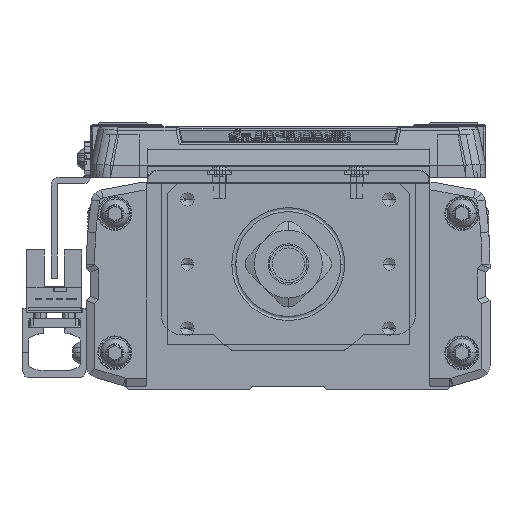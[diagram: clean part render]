
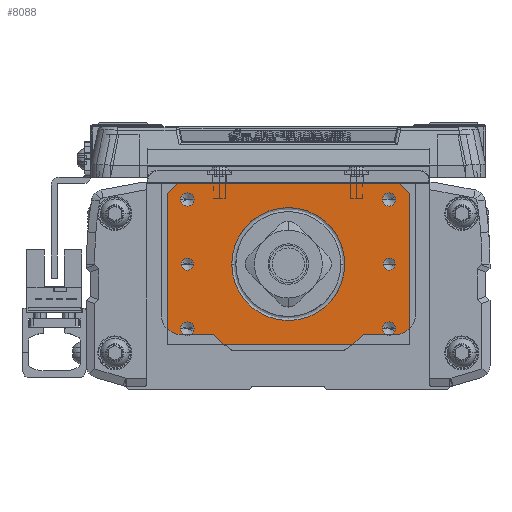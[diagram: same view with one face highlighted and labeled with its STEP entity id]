
A CAD part, left-side view. The second image highlights one B-rep face of the part: STEP entity #8088.
In plain terms, the highlighted planar face has unit normal (-1, 0, 0).
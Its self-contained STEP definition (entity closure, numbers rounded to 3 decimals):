
#8088=ADVANCED_FACE('',(#16320,#16321,#16322,#16323,#16324,#16325,#16326,#16327),#16328,.T.);
#16320=FACE_BOUND('',#25153,.T.);
#16321=FACE_BOUND('',#25154,.T.);
#16322=FACE_BOUND('',#25155,.T.);
#16323=FACE_BOUND('',#25156,.T.);
#16324=FACE_BOUND('',#25157,.T.);
#16325=FACE_BOUND('',#25158,.T.);
#16326=FACE_BOUND('',#25159,.T.);
#16327=FACE_OUTER_BOUND('',#25160,.T.);
#16328=PLANE('',#25161);
#25153=EDGE_LOOP('',(#48193,#48194));
#25154=EDGE_LOOP('',(#48195,#48196));
#25155=EDGE_LOOP('',(#48197,#48198));
#25156=EDGE_LOOP('',(#48199,#48200));
#25157=EDGE_LOOP('',(#48201,#48202));
#25158=EDGE_LOOP('',(#48203,#48204));
#25159=EDGE_LOOP('',(#48205,#48206,#48207));
#25160=EDGE_LOOP('',(#48208,#48209,#48210,#48211,#48212,#48213));
#25161=AXIS2_PLACEMENT_3D('',#48214,#48215,#48216);
#48193=ORIENTED_EDGE('',*,*,#57844,.T.);
#48194=ORIENTED_EDGE('',*,*,#50491,.T.);
#48195=ORIENTED_EDGE('',*,*,#55289,.T.);
#48196=ORIENTED_EDGE('',*,*,#56217,.T.);
#48197=ORIENTED_EDGE('',*,*,#57006,.T.);
#48198=ORIENTED_EDGE('',*,*,#56288,.T.);
#48199=ORIENTED_EDGE('',*,*,#53393,.T.);
#48200=ORIENTED_EDGE('',*,*,#57755,.T.);
#48201=ORIENTED_EDGE('',*,*,#56521,.T.);
#48202=ORIENTED_EDGE('',*,*,#57146,.T.);
#48203=ORIENTED_EDGE('',*,*,#58187,.T.);
#48204=ORIENTED_EDGE('',*,*,#57964,.T.);
#48205=ORIENTED_EDGE('',*,*,#51603,.T.);
#48206=ORIENTED_EDGE('',*,*,#54431,.T.);
#48207=ORIENTED_EDGE('',*,*,#51604,.T.);
#48208=ORIENTED_EDGE('',*,*,#57535,.F.);
#48209=ORIENTED_EDGE('',*,*,#49474,.F.);
#48210=ORIENTED_EDGE('',*,*,#51364,.T.);
#48211=ORIENTED_EDGE('',*,*,#54647,.T.);
#48212=ORIENTED_EDGE('',*,*,#55886,.F.);
#48213=ORIENTED_EDGE('',*,*,#56034,.T.);
#48214=CARTESIAN_POINT('',(-580.,0.,-20.));
#48215=DIRECTION('',(-1.0,0.,0.));
#48216=DIRECTION('',(0.,-1.0,0.));
#49474=EDGE_CURVE('',#59056,#59054,#59058,.T.);
#50491=EDGE_CURVE('',#60881,#60878,#60882,.T.);
#51364=EDGE_CURVE('',#59056,#62401,#62403,.T.);
#51603=EDGE_CURVE('',#62814,#62812,#62815,.T.);
#51604=EDGE_CURVE('',#62816,#62814,#62817,.T.);
#53393=EDGE_CURVE('',#65620,#65622,#65624,.T.);
#54431=EDGE_CURVE('',#62812,#62816,#67149,.T.);
#54647=EDGE_CURVE('',#62401,#67458,#67460,.T.);
#55289=EDGE_CURVE('',#68326,#68329,#68331,.T.);
#55886=EDGE_CURVE('',#69114,#67458,#69115,.T.);
#56034=EDGE_CURVE('',#69114,#69293,#69295,.T.);
#56217=EDGE_CURVE('',#68329,#68326,#69524,.T.);
#56288=EDGE_CURVE('',#69622,#69620,#69623,.T.);
#56521=EDGE_CURVE('',#69905,#69910,#69912,.T.);
#57006=EDGE_CURVE('',#69620,#69622,#70491,.T.);
#57146=EDGE_CURVE('',#69910,#69905,#70654,.T.);
#57535=EDGE_CURVE('',#59054,#69293,#71093,.T.);
#57755=EDGE_CURVE('',#65622,#65620,#71326,.T.);
#57844=EDGE_CURVE('',#60878,#60881,#71420,.T.);
#57964=EDGE_CURVE('',#71550,#71548,#71551,.T.);
#58187=EDGE_CURVE('',#71548,#71550,#71779,.T.);
#59054=VERTEX_POINT('',#72983);
#59056=VERTEX_POINT('',#72986);
#59058=LINE('',#72989,#72990);
#60878=VERTEX_POINT('',#75526);
#60881=VERTEX_POINT('',#75530);
#60882=CIRCLE('',#75531,1.5);
#62401=VERTEX_POINT('',#77548);
#62403=LINE('',#77551,#77552);
#62812=VERTEX_POINT('',#78081);
#62814=VERTEX_POINT('',#78083);
#62815=CIRCLE('',#78084,14.0);
#62816=VERTEX_POINT('',#78085);
#62817=CIRCLE('',#78086,14.0);
#65620=VERTEX_POINT('',#82081);
#65622=VERTEX_POINT('',#82084);
#65624=CIRCLE('',#82087,1.65);
#67149=CIRCLE('',#84336,14.0);
#67458=VERTEX_POINT('',#84801);
#67460=LINE('',#84804,#84805);
#68326=VERTEX_POINT('',#86065);
#68329=VERTEX_POINT('',#86069);
#68331=CIRCLE('',#86072,1.5);
#69114=VERTEX_POINT('',#87160);
#69115=LINE('',#87161,#87162);
#69293=VERTEX_POINT('',#87456);
#69295=LINE('',#87459,#87460);
#69524=CIRCLE('',#87896,1.5);
#69620=VERTEX_POINT('',#88015);
#69622=VERTEX_POINT('',#88018);
#69623=CIRCLE('',#88019,1.65);
#69905=VERTEX_POINT('',#88460);
#69910=VERTEX_POINT('',#88466);
#69912=CIRCLE('',#88469,1.65);
#70491=CIRCLE('',#89279,1.65);
#70654=CIRCLE('',#89498,1.65);
#71093=LINE('',#90109,#90110);
#71326=CIRCLE('',#90438,1.65);
#71420=CIRCLE('',#90555,1.5);
#71548=VERTEX_POINT('',#90716);
#71550=VERTEX_POINT('',#90719);
#71551=CIRCLE('',#90720,1.65);
#71779=CIRCLE('',#91008,1.65);
#72983=CARTESIAN_POINT('',(-580.,30.,17.5));
#72986=CARTESIAN_POINT('',(-580.,30.,-20.));
#72989=CARTESIAN_POINT('',(-580.,30.,-20.));
#72990=VECTOR('',#91711,10.0);
#75526=CARTESIAN_POINT('',(-580.,-26.5,0.));
#75530=CARTESIAN_POINT('',(-580.,-23.5,0.));
#75531=AXIS2_PLACEMENT_3D('',#93185,#93186,#93187);
#77548=CARTESIAN_POINT('',(-580.,-30.,-20.));
#77551=CARTESIAN_POINT('',(-580.,30.,-20.));
#77552=VECTOR('',#94540,10.0);
#78081=CARTESIAN_POINT('',(-580.,14.,0.));
#78083=CARTESIAN_POINT('',(-580.,0.,-14.));
#78084=AXIS2_PLACEMENT_3D('',#94880,#94881,#94882);
#78085=CARTESIAN_POINT('',(-580.,-14.,0.));
#78086=AXIS2_PLACEMENT_3D('',#94883,#94884,#94885);
#82081=CARTESIAN_POINT('',(-580.,26.65,-16.));
#82084=CARTESIAN_POINT('',(-580.,23.35,-16.));
#82087=AXIS2_PLACEMENT_3D('',#97207,#97208,#97209);
#84336=AXIS2_PLACEMENT_3D('',#98458,#98459,#98460);
#84801=CARTESIAN_POINT('',(-580.,-30.,17.5));
#84804=CARTESIAN_POINT('',(-580.,-30.,-20.));
#84805=VECTOR('',#98726,10.0);
#86065=CARTESIAN_POINT('',(-580.,26.5,0.));
#86069=CARTESIAN_POINT('',(-580.,23.5,0.));
#86072=AXIS2_PLACEMENT_3D('',#99520,#99521,#99522);
#87160=CARTESIAN_POINT('',(-580.,-27.5,20.));
#87161=CARTESIAN_POINT('',(-580.,-31.25,16.25));
#87162=VECTOR('',#100279,10.);
#87456=CARTESIAN_POINT('',(-580.,27.5,20.));
#87459=CARTESIAN_POINT('',(-580.,30.,20.));
#87460=VECTOR('',#100420,10.0);
#87896=AXIS2_PLACEMENT_3D('',#100623,#100624,#100625);
#88015=CARTESIAN_POINT('',(-580.,-26.65,-16.));
#88018=CARTESIAN_POINT('',(-580.,-23.35,-16.));
#88019=AXIS2_PLACEMENT_3D('',#100724,#100725,#100726);
#88460=CARTESIAN_POINT('',(-580.,26.65,16.));
#88466=CARTESIAN_POINT('',(-580.,23.35,16.));
#88469=AXIS2_PLACEMENT_3D('',#100998,#100999,#101000);
#89279=AXIS2_PLACEMENT_3D('',#101543,#101544,#101545);
#89498=AXIS2_PLACEMENT_3D('',#101680,#101681,#101682);
#90109=CARTESIAN_POINT('',(-580.,31.25,16.25));
#90110=VECTOR('',#102008,10.);
#90438=AXIS2_PLACEMENT_3D('',#102183,#102184,#102185);
#90555=AXIS2_PLACEMENT_3D('',#102242,#102243,#102244);
#90716=CARTESIAN_POINT('',(-580.,-26.65,16.));
#90719=CARTESIAN_POINT('',(-580.,-23.35,16.));
#90720=AXIS2_PLACEMENT_3D('',#102327,#102328,#102329);
#91008=AXIS2_PLACEMENT_3D('',#102430,#102431,#102432);
#91711=DIRECTION('',(0.,0.,1.0));
#93185=CARTESIAN_POINT('',(-580.,-25.,0.));
#93186=DIRECTION('',(1.0,0.,0.));
#93187=DIRECTION('',(0.,-1.0,0.));
#94540=DIRECTION('',(0.,-1.0,0.));
#94880=CARTESIAN_POINT('',(-580.,0.,0.));
#94881=DIRECTION('',(1.0,0.,0.));
#94882=DIRECTION('',(0.,0.,1.0));
#94883=CARTESIAN_POINT('',(-580.,0.,0.));
#94884=DIRECTION('',(1.0,0.,0.));
#94885=DIRECTION('',(0.,0.,1.0));
#97207=CARTESIAN_POINT('',(-580.,25.,-16.));
#97208=DIRECTION('',(1.0,0.,0.));
#97209=DIRECTION('',(0.,1.0,0.));
#98458=CARTESIAN_POINT('',(-580.,0.,0.));
#98459=DIRECTION('',(1.0,0.,0.));
#98460=DIRECTION('',(0.,0.,1.0));
#98726=DIRECTION('',(0.,0.,1.0));
#99520=CARTESIAN_POINT('',(-580.,25.,0.));
#99521=DIRECTION('',(1.0,0.,0.));
#99522=DIRECTION('',(0.,1.0,0.));
#100279=DIRECTION('',(0.0,-0.707,-0.707));
#100420=DIRECTION('',(0.,1.0,0.));
#100623=CARTESIAN_POINT('',(-580.,25.,0.));
#100624=DIRECTION('',(1.0,0.,0.));
#100625=DIRECTION('',(0.,1.0,0.));
#100724=CARTESIAN_POINT('',(-580.,-25.,-16.));
#100725=DIRECTION('',(1.0,0.,0.));
#100726=DIRECTION('',(0.,-1.0,0.));
#100998=CARTESIAN_POINT('',(-580.,25.,16.));
#100999=DIRECTION('',(1.0,0.,0.));
#101000=DIRECTION('',(0.,1.0,0.));
#101543=CARTESIAN_POINT('',(-580.,-25.,-16.));
#101544=DIRECTION('',(1.0,0.,0.));
#101545=DIRECTION('',(0.,-1.0,0.));
#101680=CARTESIAN_POINT('',(-580.,25.,16.));
#101681=DIRECTION('',(1.0,0.,0.));
#101682=DIRECTION('',(0.,1.0,0.));
#102008=DIRECTION('',(0.,-0.707,0.707));
#102183=CARTESIAN_POINT('',(-580.,25.,-16.));
#102184=DIRECTION('',(1.0,0.,0.));
#102185=DIRECTION('',(0.,1.0,0.));
#102242=CARTESIAN_POINT('',(-580.,-25.,0.));
#102243=DIRECTION('',(1.0,0.,0.));
#102244=DIRECTION('',(0.,-1.0,0.));
#102327=CARTESIAN_POINT('',(-580.,-25.,16.));
#102328=DIRECTION('',(1.0,0.,0.));
#102329=DIRECTION('',(0.,-1.0,0.));
#102430=CARTESIAN_POINT('',(-580.,-25.,16.));
#102431=DIRECTION('',(1.0,0.,0.));
#102432=DIRECTION('',(0.,-1.0,0.));
